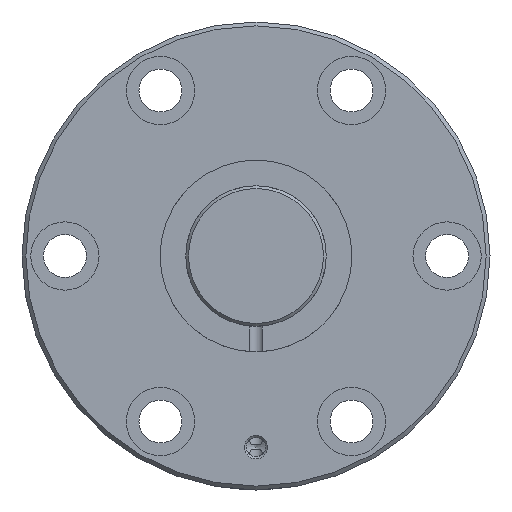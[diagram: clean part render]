
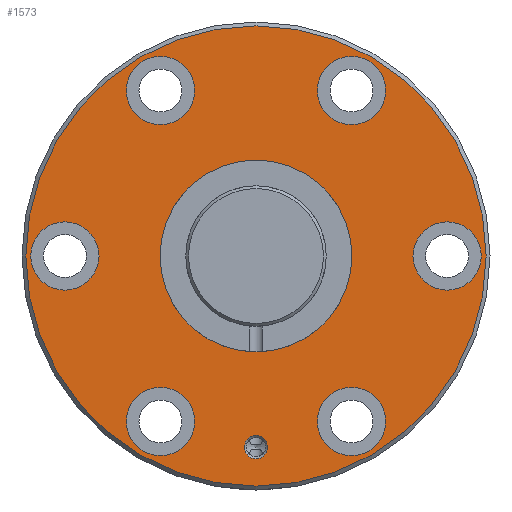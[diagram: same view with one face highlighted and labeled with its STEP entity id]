
A CAD part, left-side view. The second image highlights one B-rep face of the part: STEP entity #1573.
In plain terms, the highlighted planar face has unit normal (-1, 0, 0).
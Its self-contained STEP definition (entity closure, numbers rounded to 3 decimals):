
#268=ORIENTED_EDGE('',*,*,#630,.T.);
#269=ORIENTED_EDGE('',*,*,#662,.T.);
#270=ORIENTED_EDGE('',*,*,#663,.T.);
#271=ORIENTED_EDGE('',*,*,#664,.T.);
#272=ORIENTED_EDGE('',*,*,#665,.T.);
#273=ORIENTED_EDGE('',*,*,#666,.T.);
#274=ORIENTED_EDGE('',*,*,#667,.T.);
#275=ORIENTED_EDGE('',*,*,#668,.T.);
#276=ORIENTED_EDGE('',*,*,#661,.F.);
#630=EDGE_CURVE('',#831,#831,#976,.T.);
#661=EDGE_CURVE('',#862,#862,#979,.T.);
#662=EDGE_CURVE('',#863,#863,#980,.F.);
#663=EDGE_CURVE('',#864,#864,#981,.T.);
#664=EDGE_CURVE('',#865,#865,#982,.T.);
#665=EDGE_CURVE('',#866,#866,#983,.T.);
#666=EDGE_CURVE('',#867,#867,#984,.T.);
#667=EDGE_CURVE('',#868,#868,#985,.T.);
#668=EDGE_CURVE('',#869,#869,#986,.T.);
#831=VERTEX_POINT('',#2640);
#862=VERTEX_POINT('',#2786);
#863=VERTEX_POINT('',#2789);
#864=VERTEX_POINT('',#2791);
#865=VERTEX_POINT('',#2793);
#866=VERTEX_POINT('',#2795);
#867=VERTEX_POINT('',#2797);
#868=VERTEX_POINT('',#2799);
#869=VERTEX_POINT('',#2801);
#976=CIRCLE('',#1718,24.6);
#979=CIRCLE('',#1725,59.);
#980=CIRCLE('',#1727,8.75);
#981=CIRCLE('',#1728,3.);
#982=CIRCLE('',#1729,8.75);
#983=CIRCLE('',#1730,8.75);
#984=CIRCLE('',#1731,8.75);
#985=CIRCLE('',#1732,8.75);
#986=CIRCLE('',#1733,8.75);
#1135=EDGE_LOOP('',(#268));
#1136=EDGE_LOOP('',(#269));
#1137=EDGE_LOOP('',(#270));
#1138=EDGE_LOOP('',(#271));
#1139=EDGE_LOOP('',(#272));
#1140=EDGE_LOOP('',(#273));
#1141=EDGE_LOOP('',(#274));
#1142=EDGE_LOOP('',(#275));
#1143=EDGE_LOOP('',(#276));
#1337=FACE_BOUND('',#1135,.T.);
#1338=FACE_BOUND('',#1136,.T.);
#1339=FACE_BOUND('',#1137,.T.);
#1340=FACE_BOUND('',#1138,.T.);
#1341=FACE_BOUND('',#1139,.T.);
#1342=FACE_BOUND('',#1140,.T.);
#1343=FACE_BOUND('',#1141,.T.);
#1344=FACE_BOUND('',#1142,.T.);
#1345=FACE_BOUND('',#1143,.T.);
#1510=PLANE('',#1726);
#1573=ADVANCED_FACE('',(#1337,#1338,#1339,#1340,#1341,#1342,#1343,#1344,
#1345),#1510,.T.);
#1718=AXIS2_PLACEMENT_3D('',#2639,#1999,#2000);
#1725=AXIS2_PLACEMENT_3D('',#2785,#2033,#2034);
#1726=AXIS2_PLACEMENT_3D('',#2787,#2035,#2036);
#1727=AXIS2_PLACEMENT_3D('',#2788,#2037,#2038);
#1728=AXIS2_PLACEMENT_3D('',#2790,#2039,#2040);
#1729=AXIS2_PLACEMENT_3D('',#2792,#2041,#2042);
#1730=AXIS2_PLACEMENT_3D('',#2794,#2043,#2044);
#1731=AXIS2_PLACEMENT_3D('',#2796,#2045,#2046);
#1732=AXIS2_PLACEMENT_3D('',#2798,#2047,#2048);
#1733=AXIS2_PLACEMENT_3D('',#2800,#2049,#2050);
#1999=DIRECTION('',(1.,0.,0.));
#2000=DIRECTION('',(0.,0.,-1.));
#2033=DIRECTION('',(1.,0.,0.));
#2034=DIRECTION('',(0.,0.,-1.));
#2035=DIRECTION('',(-1.,0.,0.));
#2036=DIRECTION('',(0.,0.,1.));
#2037=DIRECTION('',(-1.,0.,0.));
#2038=DIRECTION('',(0.,0.,1.));
#2039=DIRECTION('',(1.,0.,0.));
#2040=DIRECTION('',(0.,1.,0.));
#2041=DIRECTION('',(1.,0.,0.));
#2042=DIRECTION('',(0.,0.,-1.));
#2043=DIRECTION('',(1.,0.,0.));
#2044=DIRECTION('',(0.,0.,-1.));
#2045=DIRECTION('',(1.,0.,0.));
#2046=DIRECTION('',(0.,0.,-1.));
#2047=DIRECTION('',(1.,0.,0.));
#2048=DIRECTION('',(0.,0.,-1.));
#2049=DIRECTION('',(1.,0.,0.));
#2050=DIRECTION('',(0.,0.,-1.));
#2639=CARTESIAN_POINT('',(0.,0.,0.));
#2640=CARTESIAN_POINT('',(0.,0.,-24.6));
#2785=CARTESIAN_POINT('',(0.,0.,0.));
#2786=CARTESIAN_POINT('',(0.,0.,-59.));
#2787=CARTESIAN_POINT('',(0.,59.,0.));
#2788=CARTESIAN_POINT('',(0.,49.,0.));
#2789=CARTESIAN_POINT('',(0.,49.,8.75));
#2790=CARTESIAN_POINT('',(0.,0.,-49.));
#2791=CARTESIAN_POINT('',(0.,3.,-49.));
#2792=CARTESIAN_POINT('',(0.,24.5,42.435));
#2793=CARTESIAN_POINT('',(0.,24.5,33.685));
#2794=CARTESIAN_POINT('',(0.,-24.5,-42.435));
#2795=CARTESIAN_POINT('',(0.,-24.5,-51.185));
#2796=CARTESIAN_POINT('',(0.,-24.5,42.435));
#2797=CARTESIAN_POINT('',(0.,-24.5,33.685));
#2798=CARTESIAN_POINT('',(0.,24.5,-42.435));
#2799=CARTESIAN_POINT('',(0.,24.5,-51.185));
#2800=CARTESIAN_POINT('',(0.,-49.,0.));
#2801=CARTESIAN_POINT('',(0.,-49.,-8.75));
